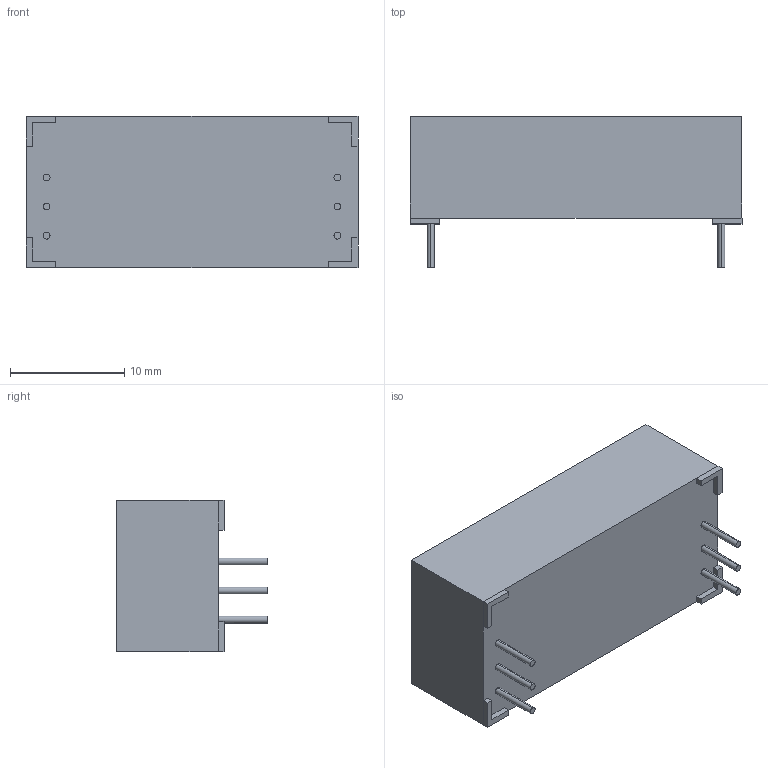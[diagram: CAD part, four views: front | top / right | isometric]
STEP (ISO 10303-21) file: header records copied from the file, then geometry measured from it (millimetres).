
FILE_DESCRIPTION (( 'STEP AP203' ), '1' );
FILE_NAME ('80-2-A.STEP', '2010-06-29T15:20:04', ( ' ' ), ( '' ), 'SwSTEP 2.0', 'SolidWorks 2009', '' );
FILE_SCHEMA (( 'CONFIG_CONTROL_DESIGN' ));
Length unit declared in the file: millimetre
Products named in the file (1): 80-2-A
Bounding box: 29 x 13.2 x 13.2 mm (x, y, z)
Volume: 3414.2 mm3; surface area: 1585.4 mm2
Topology: 1 solids, 1 shells, 668 faces, 1767 edges, 1174 vertices
Faces by surface type: plane 417, bspline 239, cylinder 12
Entity records: 33438 total; most frequent: CARTESIAN_POINT 18401, ORIENTED_EDGE 3534, DIRECTION 2177, EDGE_CURVE 1767, VECTOR 1261, LINE 1261, VERTEX_POINT 1174, EDGE_LOOP 741
